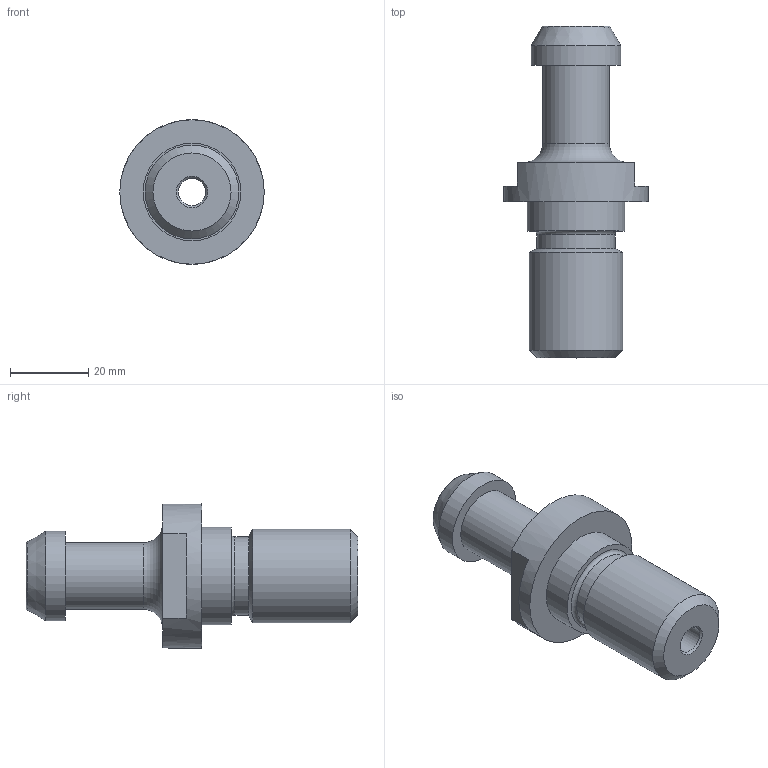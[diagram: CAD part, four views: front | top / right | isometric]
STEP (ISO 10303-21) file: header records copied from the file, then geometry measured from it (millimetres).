
FILE_DESCRIPTION(/* description */ (''),/* implementation_level */ '2;1');
FILE_NAME(/* name */ '',/* time_stamp */ '2025-06-09T15:12:55+03:00',/* author */ ('User'),/* organization */ (''),/* preprocessor_version */ 'ST-DEVELOPER v19.2',/* originating_system */ 'Autodesk Inventor 2024',/* authorisation */ '');
FILE_SCHEMA (('AUTOMOTIVE_DESIGN { 1 0 10303 214 3 1 1 }'));
Length unit declared in the file: millimetre
Products named in the file (1): Штревель_BT40-45
Bounding box: 37 x 85 x 37 mm (x, y, z)
Volume: 34093.5 mm3; surface area: 10304.8 mm2
Topology: 1 solids, 1 shells, 25 faces, 53 edges, 34 vertices
Faces by surface type: plane 10, cylinder 7, cone 5, torus 3
Full cylindrical faces by diameter (mm): 7 x1, 17 x1, 20 x1, 23 x1, 24 x1, 25 x1, 37 x1
Entity records: 757 total; most frequent: DIRECTION 138, CARTESIAN_POINT 113, ORIENTED_EDGE 106, AXIS2_PLACEMENT_3D 59, EDGE_CURVE 53, VERTEX_POINT 34, CIRCLE 33, EDGE_LOOP 31
